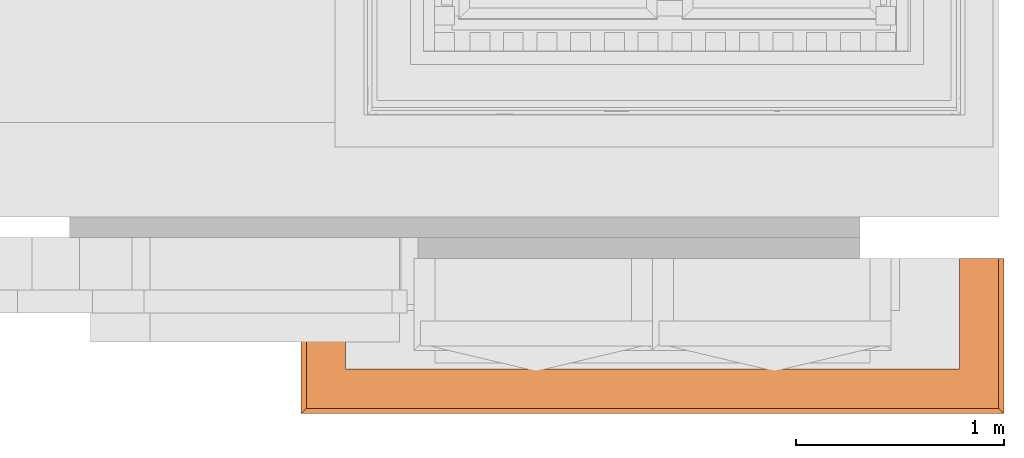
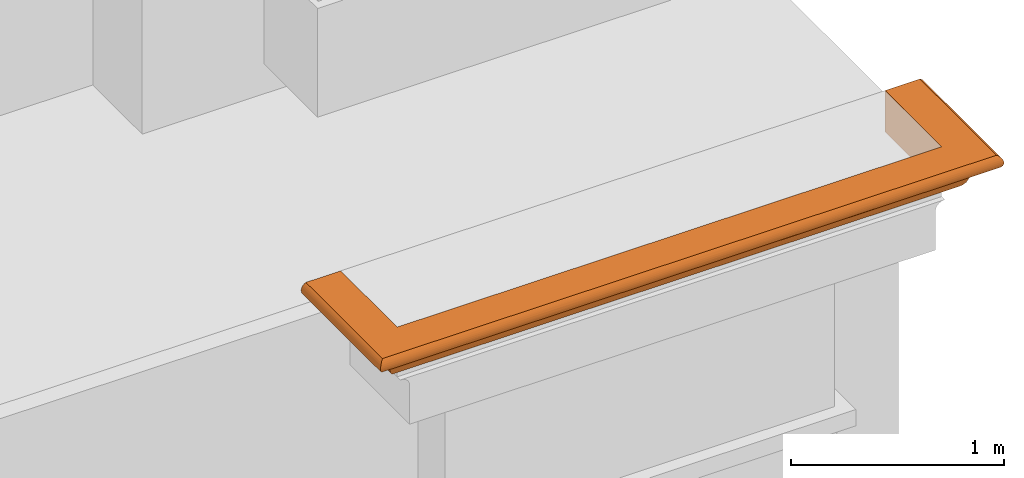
# One storey, part 38 of 44: 1 proxy.
"""IFC2X3 building model written with IfcOpenShell, lengths in metres."""

from ifc_helpers import new_model, entity, si_unit, converted_unit, derived_unit, direction, frame, origin, place, context, subcontext, project, spatial, faceted_brep, material, element, save


model = new_model("IFC2X3")

# Units and contexts
model_context = context("Model", 3, precision=1e-05, world=origin(), true_north=direction((6.12303176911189e-17, 1.0)))
body_context = subcontext(model_context, "Body", "Model", "MODEL_VIEW")
ifc_project = project(units=[si_unit("LENGTHUNIT", "METRE"), si_unit("AREAUNIT", "SQUARE_METRE"), si_unit("VOLUMEUNIT", "CUBIC_METRE"), converted_unit("PLANEANGLEUNIT", "DEGREE", entity("IfcRatioMeasure", 0.0174532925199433), si_unit("PLANEANGLEUNIT", "RADIAN"), dimensions=[0, 0, 0, 0, 0, 0, 0]), si_unit("MASSUNIT", "GRAM", prefix="KILO"), derived_unit("MASSDENSITYUNIT", [(si_unit("MASSUNIT", "GRAM", prefix="KILO"), 1), (si_unit("LENGTHUNIT", "METRE"), -3)]), si_unit("TIMEUNIT", "SECOND"), si_unit("FREQUENCYUNIT", "HERTZ"), si_unit("THERMODYNAMICTEMPERATUREUNIT", "DEGREE_CELSIUS"), derived_unit("THERMALTRANSMITTANCEUNIT", [(si_unit("MASSUNIT", "GRAM", prefix="KILO"), 1), (si_unit("THERMODYNAMICTEMPERATUREUNIT", "KELVIN"), -1), (si_unit("TIMEUNIT", "SECOND"), -3)]), derived_unit("VOLUMETRICFLOWRATEUNIT", [(si_unit("LENGTHUNIT", "METRE"), 3), (si_unit("TIMEUNIT", "SECOND"), -1)]), si_unit("ELECTRICCURRENTUNIT", "AMPERE"), si_unit("ELECTRICVOLTAGEUNIT", "VOLT"), si_unit("POWERUNIT", "WATT"), si_unit("FORCEUNIT", "NEWTON", prefix="KILO"), si_unit("ILLUMINANCEUNIT", "LUX"), si_unit("LUMINOUSFLUXUNIT", "LUMEN"), si_unit("LUMINOUSINTENSITYUNIT", "CANDELA"), derived_unit("USERDEFINED", [(si_unit("MASSUNIT", "GRAM", prefix="KILO"), -1), (si_unit("LENGTHUNIT", "METRE"), -2), (si_unit("TIMEUNIT", "SECOND"), 3), (si_unit("LUMINOUSFLUXUNIT", "LUMEN"), 1)]), derived_unit("LINEARVELOCITYUNIT", [(si_unit("LENGTHUNIT", "METRE"), 1), (si_unit("TIMEUNIT", "SECOND"), -1)]), si_unit("PRESSUREUNIT", "PASCAL"), derived_unit("USERDEFINED", [(si_unit("LENGTHUNIT", "METRE"), -2), (si_unit("MASSUNIT", "GRAM", prefix="KILO"), 1), (si_unit("TIMEUNIT", "SECOND"), -2)])], contexts=[model_context])

# Site, building, storey
site_placement = place(None, origin())
site = spatial("IfcSite", under=ifc_project, at=site_placement, Name="Default", CompositionType="ELEMENT")
building_placement = place(site_placement, origin())
building = spatial("IfcBuilding", under=site, at=building_placement, CompositionType="ELEMENT")
storey_placement = place(building_placement, origin())
storey = spatial("IfcBuildingStorey", under=building, at=storey_placement, Name="Livello 1", CompositionType="ELEMENT", Elevation=0.0)

# Proxy
ifc_material = material(Name="Piperno")
proxy_placement = place(storey_placement, frame((8.67252141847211, -1.07986931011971, 13.1103778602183)))
element("IfcBuildingElementProxy", 1, at=proxy_placement, inside=storey, material=ifc_material, Name="Stratigrafia", context=body_context, shape_type="Brep", body=[
    faceted_brep([(0.165576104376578, 0.745401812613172, 0.0186018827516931), (0.145459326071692, 0.745401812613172, 0.035910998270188), (0.130346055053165, 0.745401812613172, 0.0577256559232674), (0.121209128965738, 0.745401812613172, 0.0826416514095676), (0.112072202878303, 0.745401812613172, 0.107557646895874), (0.0969589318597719, 0.745401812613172, 0.129372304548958), (0.0768421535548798, 0.745401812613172, 0.146681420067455), (0.0530167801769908, 0.745401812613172, 0.158370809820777), (0.0270164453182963, 0.745401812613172, 0.163688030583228), (0.0185949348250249, 0.745401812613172, 0.168211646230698), (0.011487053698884, 0.745401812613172, 0.174604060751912), (0.00609865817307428, 0.745401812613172, 0.182500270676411), (0.00273742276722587, 0.745401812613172, 0.19144940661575), (0.00159527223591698, 0.745401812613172, 0.200940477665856), (0.00273742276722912, 0.745401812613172, 0.210431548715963), (0.00609865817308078, 0.745401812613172, 0.219380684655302), (0.0114870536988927, 0.745401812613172, 0.227276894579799), (0.0185949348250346, 0.745401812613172, 0.233669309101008), (0.0270164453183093, 0.745401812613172, 0.238192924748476), (0.215401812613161, 0.745401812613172, 0.238192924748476), (0.215401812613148, 0.745401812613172, 0.0015952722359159), (0.189401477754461, 0.745401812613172, 0.00691249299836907), (3.18620224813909, 0.745401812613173, 0.00691249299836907), (3.1602019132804, 0.745401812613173, 0.0015952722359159), (3.16020191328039, 0.745401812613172, 0.238192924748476), (3.34858728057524, 0.745401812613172, 0.238192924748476), (3.35700879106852, 0.745401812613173, 0.233669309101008), (3.36411667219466, 0.745401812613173, 0.227276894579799), (3.36950506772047, 0.745401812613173, 0.219380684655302), (3.37286630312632, 0.745401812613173, 0.210431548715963), (3.37400845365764, 0.745401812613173, 0.200940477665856), (3.37286630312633, 0.745401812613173, 0.19144940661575), (3.36950506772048, 0.745401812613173, 0.182500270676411), (3.36411667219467, 0.745401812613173, 0.174604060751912), (3.35700879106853, 0.745401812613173, 0.168211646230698), (3.34858728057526, 0.745401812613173, 0.163688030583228), (3.32258694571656, 0.745401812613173, 0.158370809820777), (3.29876157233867, 0.745401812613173, 0.146681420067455), (3.27864479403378, 0.745401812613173, 0.129372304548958), (3.26353152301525, 0.745401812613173, 0.107557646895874), (3.25439459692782, 0.745401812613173, 0.0826416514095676), (3.24525767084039, 0.745401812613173, 0.0577256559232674), (3.23014439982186, 0.745401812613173, 0.035910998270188), (3.21002762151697, 0.745401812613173, 0.0186018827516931), (0.0185949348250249, 0.0185949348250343, 0.168211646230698), (0.0148493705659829, 0.456874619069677, 0.171194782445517), (0.0208864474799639, 0.414126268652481, 0.166715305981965), (0.00844632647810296, 0.375750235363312, 0.178552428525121), (0.011487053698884, 0.0114870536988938, 0.174604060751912), (0.00609865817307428, 0.00609865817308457, 0.182500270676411), (0.0270164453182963, 0.524551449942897, 0.163688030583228), (0.0270164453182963, 0.303701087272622, 0.163688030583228), (0.00187803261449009, 0.284951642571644, 0.205688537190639), (0.00273742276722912, 0.00273742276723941, 0.210431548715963), (0.00412581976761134, 0.209841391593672, 0.214942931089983), (0.001881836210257, 0.374069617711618, 0.196160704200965), (0.00411708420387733, 0.284986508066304, 0.186961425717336), (0.00273742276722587, 0.00273742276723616, 0.19144940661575), (0.0270164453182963, 0.0270164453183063, 0.163688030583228), (0.00159527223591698, 0.00159527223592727, 0.200940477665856), (0.00414977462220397, 0.541490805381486, 0.186874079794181), (0.0114870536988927, 0.011487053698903, 0.227276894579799), (0.0185949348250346, 0.0185949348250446, 0.233669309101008), (0.0148493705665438, 0.456874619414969, 0.230686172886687), (0.0208864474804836, 0.414126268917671, 0.235165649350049), (0.0270164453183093, 0.30370108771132, 0.238192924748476), (0.00188183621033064, 0.541480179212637, 0.205720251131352), (0.00844632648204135, 0.375750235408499, 0.223328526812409), (0.00609865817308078, 0.0060986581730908, 0.219380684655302), (0.0041497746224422, 0.467572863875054, 0.215006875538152), (0.0270164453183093, 0.524551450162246, 0.238192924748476), (0.0270164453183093, 0.0270164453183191, 0.238192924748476), (0.415713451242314, 0.0270164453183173, 0.238192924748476), (0.804400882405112, 0.0270164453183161, 0.238192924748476), (1.19308831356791, 0.0270164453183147, 0.238192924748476), (1.58178531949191, 0.0270164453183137, 0.238192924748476), (2.02348820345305, 0.0270164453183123, 0.238192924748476), (2.24433964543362, 0.0270164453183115, 0.238192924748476), (2.46519108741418, 0.0270164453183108, 0.238192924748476), (2.90689397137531, 0.0270164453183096, 0.238192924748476), (3.12774541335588, 0.0270164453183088, 0.238192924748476), (3.34858728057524, 0.0270164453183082, 0.238192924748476), (3.34858728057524, 0.38620912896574, 0.238192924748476), (3.16020191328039, 0.21540181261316, 0.238192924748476), (0.215401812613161, 0.21540181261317, 0.238192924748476), (0.215401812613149, 0.215401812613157, 0.0015952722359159), (0.18940147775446, 0.18940147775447, 0.00691249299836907), (0.165576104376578, 0.165576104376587, 0.0186018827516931), (0.145459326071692, 0.1454593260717, 0.035910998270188), (0.130346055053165, 0.130346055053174, 0.0577256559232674), (0.121209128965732, 0.121209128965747, 0.0826416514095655), (0.112072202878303, 0.112072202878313, 0.107557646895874), (0.0969589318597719, 0.0969589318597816, 0.129372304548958), (0.0768421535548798, 0.076842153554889, 0.146681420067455), (0.0530167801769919, 0.0530167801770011, 0.158370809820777), (0.508833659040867, 0.0206494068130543, 0.235021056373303), (0.25420325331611, 0.0147246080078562, 0.230573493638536), (0.539549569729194, 0.0145763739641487, 0.230438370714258), (2.79796429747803, 0.0145566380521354, 0.230420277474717), (2.75036000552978, 0.0210353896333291, 0.235255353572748), (2.49908268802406, 0.0164633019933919, 0.232062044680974), (3.37286630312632, 0.00273742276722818, 0.210431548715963), (3.36950506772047, 0.00609865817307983, 0.219380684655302), (3.13720502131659, 0.00412249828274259, 0.214934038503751), (0.260278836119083, 0.0211954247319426, 0.23535075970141), (1.5356934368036, 0.00180711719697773, 0.205052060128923), (1.24620172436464, 0.00203099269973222, 0.206828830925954), (1.44294342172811, 0.00186272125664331, 0.196322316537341), (3.10102620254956, 0.00187817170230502, 0.196191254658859), (3.37286630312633, 0.00273742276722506, 0.19144940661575), (3.37400845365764, 0.00159527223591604, 0.200940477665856), (0.28835992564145, 0.00847240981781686, 0.223367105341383), (0.637185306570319, 0.00719866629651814, 0.221359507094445), (3.04043173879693, 0.00845843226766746, 0.22334644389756), (2.85618743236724, 0.00408992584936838, 0.214846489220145), (0.87145501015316, 0.00359334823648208, 0.213425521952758), (0.988475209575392, 0.0082647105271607, 0.223057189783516), (3.11532488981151, 0.0211954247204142, 0.166530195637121), (3.35700879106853, 0.0185949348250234, 0.168211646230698), (3.12140047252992, 0.0147246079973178, 0.171307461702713), (2.38712851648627, 0.0082647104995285, 0.178823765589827), (2.73517018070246, 0.00743205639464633, 0.180133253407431), (2.51868391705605, 0.00389578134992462, 0.187569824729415), (2.98442469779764, 0.00410476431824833, 0.18699450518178), (3.36950506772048, 0.00609865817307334, 0.182500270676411), (0.274811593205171, 0.014713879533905, 0.171317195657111), (0.358291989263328, 0.0206619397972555, 0.166852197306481), (0.577639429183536, 0.0145566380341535, 0.171460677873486), (0.613079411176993, 0.00922003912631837, 0.177447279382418), (0.958215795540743, 0.0161108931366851, 0.17010688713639), (0.954239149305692, 0.00841953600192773, 0.178592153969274), (3.04717362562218, 0.00187745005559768, 0.205683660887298), (0.36414370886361, 0.00187697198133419, 0.196201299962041), (0.281518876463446, 0.00187807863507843, 0.205688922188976), (3.36411667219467, 0.0114870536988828, 0.174604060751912), (2.71018980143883, 0.00820855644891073, 0.222972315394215), (0.35333040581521, 0.00845301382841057, 0.178542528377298), (2.86677006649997, 0.0206494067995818, 0.166859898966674), (2.95989568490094, 0.0270164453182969, 0.163688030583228), (1.34393125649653, 0.00757258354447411, 0.2219767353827), (1.15446330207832, 0.00412650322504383, 0.214944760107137), (1.25458926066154, 0.0188476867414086, 0.168035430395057), (0.910417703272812, 0.0270164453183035, 0.163688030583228), (1.33069501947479, 0.0270164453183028, 0.163688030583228), (1.35211930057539, 0.0270164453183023, 0.163688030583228), (0.280348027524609, 0.00411762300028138, 0.186959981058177), (3.36411667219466, 0.0114870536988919, 0.227276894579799), (3.35700879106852, 0.0185949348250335, 0.233669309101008), (3.1007921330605, 0.0147138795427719, 0.230563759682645), (3.01731173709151, 0.0206619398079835, 0.235028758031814), (0.610235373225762, 0.001873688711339, 0.205652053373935), (0.366430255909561, 0.00410763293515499, 0.214894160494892), (2.21741459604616, 0.0134998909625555, 0.229414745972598), (2.13391028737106, 0.0199395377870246, 0.234574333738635), (1.86376227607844, 0.0143280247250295, 0.230208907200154), (2.83605415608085, 0.0145763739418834, 0.171442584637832), (3.08125852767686, 0.00847062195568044, 0.178516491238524), (2.19639913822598, 0.0077403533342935, 0.222245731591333), (2.4562954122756, 0.0104212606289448, 0.226006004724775), (0.247866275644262, 0.0270164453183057, 0.163688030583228), (1.95383243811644, 0.0034367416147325, 0.188942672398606), (2.26495117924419, 0.0016613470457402, 0.198642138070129), (1.84134344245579, 0.00160233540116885, 0.201692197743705), (1.85373658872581, 0.0119018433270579, 0.174137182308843), (2.06890774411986, 0.00724378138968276, 0.180445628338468), (1.74859498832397, 0.00645401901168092, 0.181831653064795), (0.625243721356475, 0.0210353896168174, 0.166625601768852), (2.57120215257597, 0.0270164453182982, 0.163688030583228), (2.55986101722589, 0.0184019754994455, 0.168348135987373), (0.815742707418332, 0.018401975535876, 0.233532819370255), (2.58770725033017, 0.00357150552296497, 0.21335883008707), (2.31818451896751, 0.00402813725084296, 0.214678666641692), (2.44912090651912, 0.00195582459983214, 0.206299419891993), (2.75052138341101, 0.00425995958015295, 0.186584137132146), (0.677981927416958, 0.00187232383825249, 0.196240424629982), (0.61946039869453, 0.00389627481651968, 0.214312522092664), (2.17397324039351, 0.0129895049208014, 0.172979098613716), (0.928305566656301, 0.00237185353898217, 0.193096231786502), (0.74832481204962, 0.0040635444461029, 0.187105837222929), (1.00954611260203, 0.00463583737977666, 0.1856422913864), (0.515520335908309, 0.00539589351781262, 0.183921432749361), (3.34858728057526, 0.0270164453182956, 0.163688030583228), (2.7479065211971, 0.00188828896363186, 0.205773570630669), (2.7051346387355, 0.00187288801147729, 0.196235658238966), (2.58331762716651, 0.0120130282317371, 0.174014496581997), (0.792286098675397, 0.012013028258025, 0.227866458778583), (1.02479486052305, 0.0015954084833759, 0.200836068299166), (1.655734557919, 0.00313618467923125, 0.189944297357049), (1.19722641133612, 0.0129724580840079, 0.228884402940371), (1.37486089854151, 0.0195334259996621, 0.234309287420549), (1.09269001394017, 0.0198029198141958, 0.234485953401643), (1.51752183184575, 0.0125558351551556, 0.228451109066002), (1.7765417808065, 0.00663304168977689, 0.220374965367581), (2.23258783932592, 0.00411216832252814, 0.186974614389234), (1.50356677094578, 0.00640533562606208, 0.181921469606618), (1.28668522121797, 0.00487355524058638, 0.185080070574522), (2.14071393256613, 0.00209473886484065, 0.207242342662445), (2.02123165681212, 0.00438171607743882, 0.215609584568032), (1.57296898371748, 0.0182235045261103, 0.168475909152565), (1.79381896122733, 0.0270164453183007, 0.163688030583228), (2.27519771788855, 0.0193367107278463, 0.167702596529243), (1.742246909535, 0.00303623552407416, 0.211580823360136), (2.48701995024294, 0.00628088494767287, 0.219727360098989), (1.86665862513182, 0.0209526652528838, 0.2352056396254), (1.630402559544, 0.0180244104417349, 0.233260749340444), (0.468716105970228, 0.0270164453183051, 0.163688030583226), (0.741230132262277, 0.0270164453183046, 0.163688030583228), (1.28671334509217, 0.0116142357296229, 0.174459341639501), (1.9881653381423, 0.0192670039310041, 0.167749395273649), (1.57190605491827, 0.0104060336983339, 0.175893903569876), (1.1870184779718, 0.00211732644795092, 0.194498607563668), (2.63437359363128, 0.0270164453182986, 0.163688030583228), (1.92012416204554, 0.0270164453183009, 0.163688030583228), (2.18251055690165, 0.0270164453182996, 0.163688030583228), (1.43816230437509, 0.00363085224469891, 0.213539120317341), (3.16020191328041, 0.215401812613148, 0.0015952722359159), (2.80308951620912, 0.215401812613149, 0.0015952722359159), (2.44597711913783, 0.21540181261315, 0.0015952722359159), (1.73175232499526, 0.215401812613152, 0.0015952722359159), (1.33068946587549, 0.215401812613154, 0.0015952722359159), (0.929626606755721, 0.215401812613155, 0.0015952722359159), (0.572514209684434, 0.215401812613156, 0.0015952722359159), (0.495431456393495, 0.176484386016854, 0.0123113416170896), (1.0832668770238, 0.127682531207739, 0.0632484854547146), (0.870624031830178, 0.136625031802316, 0.0471875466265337), (1.32114444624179, 0.138710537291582, 0.0442247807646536), (1.46453880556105, 0.153126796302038, 0.0282367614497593), (1.77540575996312, 0.137444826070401, 0.0459967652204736), (3.23014439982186, 0.145459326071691, 0.035910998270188), (2.83069585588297, 0.136883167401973, 0.0468087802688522), (2.65743650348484, 0.15417112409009, 0.0273072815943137), (2.14134136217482, 0.196956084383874, 0.00464810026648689), (2.62453332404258, 0.195607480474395, 0.00500711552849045), (1.05959934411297, 0.1492880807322, 0.0318798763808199), (3.24525767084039, 0.130346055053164, 0.0577256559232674), (3.25439459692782, 0.121209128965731, 0.0826416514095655), (2.89728207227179, 0.121209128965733, 0.0826416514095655), (0.478321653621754, 0.12120912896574, 0.0826416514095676), (1.74960590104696, 0.196208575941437, 0.00484471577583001), (1.50945906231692, 0.128044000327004, 0.0624482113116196), (0.455509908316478, 0.136954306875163, 0.0467050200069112), (0.663796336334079, 0.154247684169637, 0.0272401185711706), (2.08624368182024, 0.153127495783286, 0.0282361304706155), (2.26762525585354, 0.175272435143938, 0.0129259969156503), (3.21002762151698, 0.165576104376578, 0.0186018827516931), (3.18620224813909, 0.18940147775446, 0.00691249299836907), (1.63001454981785, 0.178771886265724, 0.0112043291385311), (2.71872600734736, 0.127113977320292, 0.0645449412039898), (2.3437681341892, 0.136497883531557, 0.0473754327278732), (2.77126138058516, 0.176268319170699, 0.0124194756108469), (0.751070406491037, 0.195160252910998, 0.00513044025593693), (1.23044134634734, 0.192341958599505, 0.00595712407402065), (0.910802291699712, 0.17566168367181, 0.0127264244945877), (2.28982928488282, 0.126474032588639, 0.0660643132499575), (1.90445279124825, 0.128205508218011, 0.0620963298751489), (1.82594513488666, 0.121209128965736, 0.0826416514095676), (1.54965422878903, 0.121209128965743, 0.0826416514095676), (1.33068965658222, 0.121209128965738, 0.0826416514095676), (2.54016986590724, 0.121209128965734, 0.0826416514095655), (2.04491590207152, 0.121209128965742, 0.0826416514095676), (0.656877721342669, 0.127441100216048, 0.0637931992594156), (0.835433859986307, 0.121209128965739, 0.0826416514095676), (1.79728647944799, 0.114670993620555, 0.102179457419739), (0.524310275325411, 0.0868285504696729, 0.139199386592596), (2.02338906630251, 0.0554882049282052, 0.157492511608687), (1.52868842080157, 0.0792407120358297, 0.145050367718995), (2.02446070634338, 0.0856392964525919, 0.140191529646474), (0.551861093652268, 0.115499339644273, 0.100282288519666), (0.471231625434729, 0.0448151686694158, 0.160800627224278), (0.696569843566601, 0.104733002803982, 0.119629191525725), (2.59105159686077, 0.0638631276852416, 0.153977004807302), (2.39429896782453, 0.0923359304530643, 0.134187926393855), (2.77667449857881, 0.0867218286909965, 0.139289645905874), (2.46243049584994, 0.0454785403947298, 0.160630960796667), (2.87562943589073, 0.0465970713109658, 0.160334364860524), (0.655615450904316, 0.064121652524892, 0.153854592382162), (1.06135838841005, 0.0648057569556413, 0.153526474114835), (0.915755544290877, 0.0471767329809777, 0.160175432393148), (2.7313839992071, 0.114786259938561, 0.101921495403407), (3.27864479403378, 0.0969589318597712, 0.129372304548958), (3.29876157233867, 0.0768421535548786, 0.146681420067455), (2.55004153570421, 0.104628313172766, 0.119777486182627), (3.26353152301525, 0.112072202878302, 0.107557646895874), (1.41843965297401, 0.115757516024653, 0.09966924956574), (1.04114340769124, 0.11392131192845, 0.10381340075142), (1.03692383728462, 0.0860929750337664, 0.139816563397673), (3.32258694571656, 0.0530167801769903, 0.158370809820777), (2.28017180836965, 0.11452395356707, 0.102505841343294), (1.08782502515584, 0.100504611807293, 0.125221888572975), (1.42779050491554, 0.0568212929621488, 0.156989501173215), (1.57424152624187, 0.094762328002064, 0.131737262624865), (1.91464480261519, 0.102383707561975, 0.122832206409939), (1.44207505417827, 0.106880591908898, 0.116459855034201), (3.35473283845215, 0.414126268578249, 0.166724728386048), (3.34858728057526, 0.303701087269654, 0.163688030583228), (3.34858728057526, 0.524551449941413, 0.163688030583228), (3.36075435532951, 0.462903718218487, 0.171194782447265), (3.36704757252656, 0.378444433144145, 0.178390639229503), (3.37148675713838, 0.28598047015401, 0.186961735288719), (3.37145395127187, 0.542044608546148, 0.186874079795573), (3.3737268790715, 0.373498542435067, 0.19620234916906), (3.37372188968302, 0.4628855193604, 0.205720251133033), (3.36075435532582, 0.381998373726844, 0.230686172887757), (3.36704757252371, 0.463712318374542, 0.22349031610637), (3.37372463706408, 0.206236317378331, 0.205697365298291), (3.37145395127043, 0.375750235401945, 0.215006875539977), (3.36710777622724, 0.209620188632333, 0.223401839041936), (3.35498128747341, 0.267405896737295, 0.235004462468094), (3.3544696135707, 0.51611751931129, 0.235314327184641)], [[[0, 1, 2, 3, 4, 5, 6, 7, 8, 9, 10, 11, 12, 13, 14, 15, 16, 17, 18, 19, 20, 21]], [[22, 23, 24, 25, 26, 27, 28, 29, 30, 31, 32, 33, 34, 35, 36, 37, 38, 39, 40, 41, 42, 43]], [[44, 45, 46]], [[9, 46, 45]], [[47, 48, 49]], [[46, 50, 51]], [[52, 53, 54]], [[47, 10, 45]], [[44, 46, 51]], [[55, 56, 57]], [[51, 58, 44]], [[9, 8, 50]], [[10, 9, 45]], [[59, 55, 57]], [[47, 56, 60]], [[12, 11, 60]], [[61, 62, 63]], [[10, 47, 11]], [[55, 13, 12]], [[56, 49, 57]], [[52, 59, 53]], [[64, 62, 65]], [[66, 55, 52]], [[13, 66, 14]], [[67, 68, 61]], [[47, 49, 56]], [[60, 55, 12]], [[54, 67, 69]], [[53, 68, 54]], [[50, 46, 9]], [[16, 15, 67]], [[15, 69, 67]], [[16, 67, 63]], [[48, 47, 45]], [[64, 65, 70]], [[16, 63, 17]], [[61, 63, 67]], [[48, 45, 44]], [[18, 17, 70]], [[71, 65, 62]], [[64, 17, 63]], [[59, 52, 55]], [[66, 69, 14]], [[69, 15, 14]], [[17, 64, 70]], [[62, 64, 63]], [[47, 60, 11]], [[55, 60, 56]], [[55, 66, 13]], [[69, 66, 52]], [[67, 54, 68]], [[52, 54, 69]], [[19, 18, 70, 65, 71, 72, 73, 74, 75, 76, 77, 78, 79, 80, 81, 82, 25, 24, 83, 84]], [[20, 19, 84, 85]], [[21, 20, 85, 86]], [[0, 21, 86, 87]], [[87, 88, 1, 0]], [[2, 1, 88, 89]], [[3, 2, 89, 90, 91, 4]], [[5, 4, 91, 92]], [[92, 93, 6, 5]], [[7, 6, 93, 94]], [[8, 7, 94, 58, 51, 50]], [[95, 96, 97]], [[98, 99, 100]], [[101, 102, 103]], [[95, 72, 104]], [[105, 106, 107]], [[108, 109, 110]], [[111, 112, 97]], [[113, 114, 103]], [[112, 115, 116]], [[117, 118, 119]], [[120, 121, 122]], [[123, 124, 109]], [[125, 126, 127]], [[128, 129, 130]], [[131, 108, 110]], [[96, 62, 61]], [[44, 125, 48]], [[132, 133, 59]], [[118, 134, 119]], [[135, 114, 113]], [[48, 125, 136]], [[137, 138, 117]], [[139, 116, 140]], [[141, 142, 143, 144]], [[57, 49, 145]], [[146, 147, 148]], [[101, 103, 131]], [[62, 96, 104]], [[148, 149, 98]], [[133, 150, 151]], [[147, 81, 80]], [[59, 133, 53]], [[53, 151, 68]], [[57, 132, 59]], [[152, 153, 154]], [[155, 156, 121]], [[157, 158, 152]], [[115, 106, 140]], [[44, 58, 159]], [[101, 131, 110]], [[160, 161, 162]], [[163, 164, 165]], [[166, 129, 127]], [[48, 136, 49]], [[156, 124, 123]], [[167, 137, 168]], [[111, 68, 151]], [[73, 95, 169]], [[102, 146, 113]], [[170, 171, 172]], [[122, 121, 173]], [[124, 156, 134]], [[145, 49, 136]], [[174, 150, 132]], [[175, 112, 151]], [[68, 111, 61]], [[176, 164, 163]], [[177, 178, 179]], [[136, 128, 180]], [[98, 149, 99]], [[127, 126, 166]], [[180, 132, 145]], [[148, 113, 146]], [[118, 117, 181]], [[62, 104, 71]], [[135, 113, 98]], [[114, 170, 182]], [[108, 183, 123]], [[121, 156, 123]], [[119, 156, 155]], [[173, 183, 122]], [[121, 120, 184]], [[150, 133, 132]], [[151, 53, 133]], [[112, 111, 151]], [[96, 111, 97]], [[175, 150, 115]], [[112, 116, 185]], [[186, 115, 150]], [[186, 106, 115]], [[107, 187, 162]], [[188, 189, 190]], [[174, 186, 150]], [[186, 174, 177]], [[180, 145, 136]], [[132, 57, 145]], [[154, 191, 192]], [[98, 158, 135]], [[183, 108, 131]], [[123, 109, 108]], [[153, 100, 78]], [[154, 192, 157]], [[161, 160, 193]], [[164, 193, 160]], [[122, 183, 161]], [[194, 187, 195]], [[171, 196, 172]], [[197, 171, 157]], [[198, 144, 199]], [[200, 184, 176]], [[80, 149, 147]], [[113, 148, 98]], [[159, 126, 44]], [[136, 125, 127]], [[196, 171, 197]], [[162, 201, 105]], [[156, 119, 134]], [[137, 117, 119]], [[111, 96, 61]], [[95, 104, 96]], [[98, 100, 158]], [[158, 202, 135]], [[149, 80, 79]], [[149, 79, 99]], [[147, 149, 148]], [[79, 78, 99]], [[203, 204, 154]], [[78, 100, 99]], [[100, 152, 158]], [[153, 78, 77, 76]], [[203, 154, 153]], [[100, 153, 152]], [[153, 76, 203]], [[139, 192, 191]], [[192, 201, 197]], [[171, 202, 157]], [[76, 75, 203]], [[75, 189, 204]], [[126, 159, 205]], [[126, 205, 166]], [[44, 126, 125]], [[166, 205, 206, 142]], [[129, 207, 130]], [[166, 142, 129]], [[198, 199, 208]], [[129, 141, 207]], [[195, 130, 207]], [[180, 128, 178]], [[209, 163, 165]], [[186, 177, 210]], [[137, 119, 155]], [[181, 117, 138]], [[168, 137, 155]], [[137, 167, 211, 138]], [[155, 184, 168]], [[208, 199, 212, 213]], [[176, 163, 208]], [[167, 168, 200]], [[71, 104, 72]], [[169, 95, 97]], [[73, 72, 95]], [[97, 185, 169]], [[190, 189, 74]], [[116, 139, 188]], [[73, 169, 190]], [[170, 202, 171]], [[154, 157, 152]], [[197, 157, 192]], [[201, 192, 214]], [[196, 161, 172]], [[105, 201, 214]], [[196, 201, 162]], [[201, 196, 197]], [[162, 161, 196]], [[161, 183, 172]], [[131, 114, 182]], [[106, 105, 214]], [[162, 105, 107]], [[106, 214, 140]], [[106, 186, 210]], [[139, 140, 214]], [[116, 115, 140]], [[192, 139, 214]], [[139, 191, 188]], [[188, 191, 189]], [[185, 188, 169]], [[204, 189, 191]], [[75, 74, 189]], [[113, 103, 102]], [[131, 103, 114]], [[209, 198, 163]], [[141, 198, 207]], [[200, 168, 184]], [[198, 208, 163]], [[176, 208, 200]], [[164, 176, 120]], [[193, 120, 122]], [[164, 160, 165]], [[187, 165, 160]], [[194, 207, 209]], [[162, 187, 160]], [[195, 187, 107]], [[194, 209, 165]], [[198, 209, 207]], [[170, 172, 182]], [[135, 170, 114]], [[172, 183, 182]], [[183, 131, 182]], [[135, 202, 170]], [[157, 202, 158]], [[208, 213, 200]], [[167, 200, 213]], [[120, 193, 164]], [[161, 193, 122]], [[121, 184, 155]], [[176, 184, 120]], [[112, 185, 97]], [[188, 185, 116]], [[73, 190, 74]], [[188, 190, 169]], [[187, 194, 165]], [[207, 194, 195]], [[142, 141, 129]], [[198, 141, 144]], [[136, 127, 128]], [[180, 178, 174]], [[129, 128, 127]], [[178, 128, 130]], [[154, 204, 191]], [[75, 204, 203]], [[180, 174, 132]], [[174, 178, 177]], [[179, 178, 130]], [[210, 107, 106]], [[130, 195, 179]], [[210, 179, 195]], [[179, 210, 177]], [[195, 107, 210]], [[150, 175, 151]], [[115, 112, 175]], [[121, 123, 173]], [[183, 173, 123]], [[85, 84, 83, 215, 216, 217, 218, 219, 220, 221]], [[87, 86, 222]], [[223, 224, 225]], [[225, 226, 227]], [[228, 229, 230]], [[231, 217, 232]], [[226, 225, 233]], [[234, 235, 236]], [[90, 89, 237]], [[218, 231, 238]], [[223, 225, 239]], [[229, 228, 234]], [[240, 89, 88]], [[241, 88, 87]], [[230, 242, 243]], [[240, 241, 224]], [[228, 230, 244]], [[86, 85, 221]], [[245, 216, 215]], [[217, 216, 232]], [[243, 246, 231]], [[226, 242, 227]], [[229, 247, 248]], [[249, 245, 244]], [[250, 221, 220]], [[251, 252, 250]], [[242, 230, 248]], [[248, 247, 253]], [[249, 230, 243]], [[222, 241, 87]], [[233, 252, 226]], [[230, 249, 244]], [[232, 245, 249]], [[243, 231, 232]], [[245, 232, 216]], [[243, 232, 249]], [[242, 246, 243]], [[218, 217, 231]], [[226, 252, 246]], [[250, 220, 251]], [[227, 242, 248]], [[246, 242, 226]], [[254, 248, 253]], [[239, 255, 256, 257]], [[236, 247, 234]], [[230, 229, 248]], [[247, 236, 258]], [[247, 258, 253]], [[234, 247, 229]], [[253, 258, 259, 255]], [[223, 260, 224]], [[219, 251, 220]], [[221, 250, 86]], [[250, 252, 222]], [[238, 251, 219]], [[238, 219, 218]], [[246, 252, 251]], [[239, 254, 255]], [[233, 224, 241]], [[227, 239, 225]], [[239, 227, 254]], [[261, 260, 223]], [[224, 233, 225]], [[252, 233, 241]], [[248, 254, 227]], [[255, 254, 253]], [[241, 240, 88]], [[260, 89, 240]], [[260, 261, 237]], [[89, 260, 237]], [[240, 224, 260]], [[239, 257, 223]], [[261, 223, 257]], [[250, 222, 86]], [[241, 222, 252]], [[231, 246, 238]], [[251, 238, 246]], [[262, 256, 255, 259]], [[263, 93, 92]], [[264, 265, 266]], [[91, 90, 267]], [[268, 206, 205, 159, 58]], [[92, 91, 269]], [[270, 271, 272]], [[273, 274, 211]], [[275, 94, 93]], [[269, 263, 92]], [[276, 277, 275]], [[278, 258, 236, 235]], [[279, 280, 272]], [[281, 282, 279]], [[283, 284, 261]], [[263, 285, 275]], [[280, 274, 270]], [[276, 285, 265]], [[274, 280, 286]], [[270, 272, 280]], [[278, 287, 258]], [[267, 261, 284]], [[256, 262, 283]], [[275, 268, 94]], [[277, 143, 142, 206]], [[288, 285, 269]], [[269, 91, 267]], [[277, 206, 268]], [[264, 212, 289]], [[265, 285, 290]], [[287, 259, 258]], [[272, 281, 279]], [[281, 272, 271]], [[93, 263, 275]], [[181, 274, 286]], [[285, 263, 269]], [[262, 291, 292]], [[291, 290, 292]], [[262, 259, 287]], [[266, 291, 271]], [[281, 291, 287]], [[262, 287, 291]], [[278, 281, 287]], [[278, 282, 281]], [[282, 278, 235]], [[94, 268, 58]], [[289, 143, 277]], [[289, 212, 199, 144, 143]], [[277, 268, 275]], [[289, 277, 276]], [[289, 276, 265]], [[276, 275, 285]], [[284, 288, 269]], [[267, 90, 237, 261]], [[267, 284, 269]], [[262, 292, 283]], [[273, 211, 167, 213, 212]], [[270, 264, 266]], [[289, 265, 264]], [[290, 291, 266]], [[288, 292, 290]], [[265, 290, 266]], [[285, 288, 290]], [[292, 288, 284]], [[281, 271, 291]], [[266, 271, 270]], [[270, 274, 273]], [[274, 181, 138, 211]], [[273, 264, 270]], [[264, 273, 212]], [[283, 261, 257, 256]], [[283, 292, 284]], [[293, 294, 295]], [[118, 293, 296]], [[33, 32, 297]], [[293, 118, 294]], [[293, 34, 296]], [[33, 296, 34]], [[34, 293, 295]], [[298, 299, 300]], [[124, 297, 298]], [[34, 295, 35]], [[181, 294, 118]], [[30, 29, 301]], [[109, 124, 298]], [[300, 109, 298]], [[296, 134, 118]], [[27, 302, 303]], [[124, 134, 297]], [[109, 300, 110]], [[32, 31, 299]], [[31, 30, 300]], [[300, 304, 110]], [[305, 29, 28]], [[306, 302, 146]], [[302, 27, 26]], [[304, 305, 101]], [[29, 305, 301]], [[28, 27, 303]], [[82, 307, 308]], [[308, 25, 82]], [[30, 301, 300]], [[304, 101, 110]], [[307, 81, 147]], [[300, 301, 304]], [[303, 306, 305]], [[306, 146, 102]], [[33, 297, 296]], [[302, 307, 147]], [[146, 302, 147]], [[297, 32, 299]], [[305, 28, 303]], [[134, 296, 297]], [[101, 305, 102]], [[305, 304, 301]], [[300, 299, 31]], [[297, 299, 298]], [[305, 306, 102]], [[302, 306, 303]], [[308, 302, 26]], [[81, 307, 82]], [[302, 308, 307]], [[25, 308, 26]], [[215, 83, 24, 23]], [[22, 43, 244, 245]], [[23, 22, 245, 215]], [[43, 42, 228, 244]], [[228, 42, 41, 234]], [[234, 41, 40, 39, 282, 235]], [[38, 279, 282, 39]], [[38, 37, 280, 279]], [[286, 36, 35, 295, 294, 181]], [[36, 286, 280, 37]]]),
])

save(model, "model.ifc")
